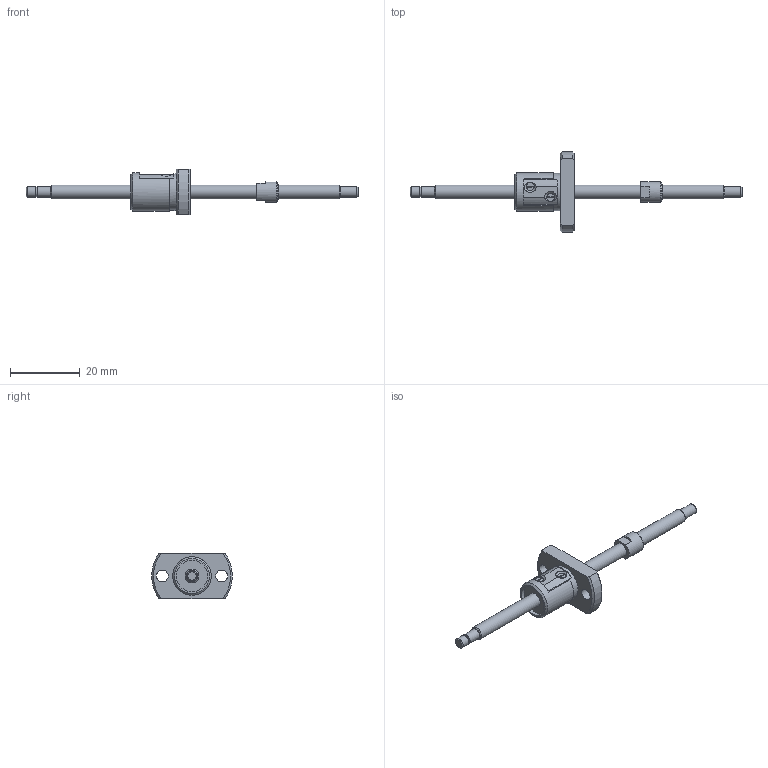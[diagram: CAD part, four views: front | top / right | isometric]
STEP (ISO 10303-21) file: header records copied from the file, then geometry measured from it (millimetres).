
FILE_DESCRIPTION(/* description */ ('STEP AP214'),/* implementation_level */ '2;1');
FILE_NAME(/* name */ 'SG0401-056R095C3B0X(23)',/* time_stamp */ '2026-07-20T19:37:59+02:00',/* author */ ('License CC BY-ND 4.0'),/* organization */ ('CADENAS'),/* preprocessor_version */ 'ST-DEVELOPER v20',/* originating_system */ 'PARTsolutions',/* authorisation */ ' ');
FILE_SCHEMA (('AUTOMOTIVE_DESIGN {1 0 10303 214 3 1 1}'));
Length unit declared in the file: millimetre
Products named in the file (3): SG0401-056R095C3B0X(23); SG0401-56R95C3B_shaft; SG0401_nut
Assembly tree (2 placements, depth 2):
  SG0401-056R095C3B0X(23)
    SG0401-56R95C3B_shaft
    SG0401_nut
Bounding box: 95 x 22.92 x 13 mm (x, y, z)
Volume: 3134.4 mm3; surface area: 2791.5 mm2
Topology: 2 solids, 2 shells, 78 faces, 184 edges, 121 vertices
Faces by surface type: plane 37, cylinder 26, cone 14, torus 1
Full cylindrical faces by diameter (mm): 2.7 x1, 3 x3, 3.4 x2, 4 x3, 6 x1, 9 x2, 10.6 x1, 11 x1
Entity records: 2165 total; most frequent: CARTESIAN_POINT 401, DIRECTION 368, ORIENTED_EDGE 300, AXIS2_PLACEMENT_3D 155, EDGE_CURVE 150, EDGE_LOOP 120, FACE_BOUND 120, VERTEX_POINT 112
